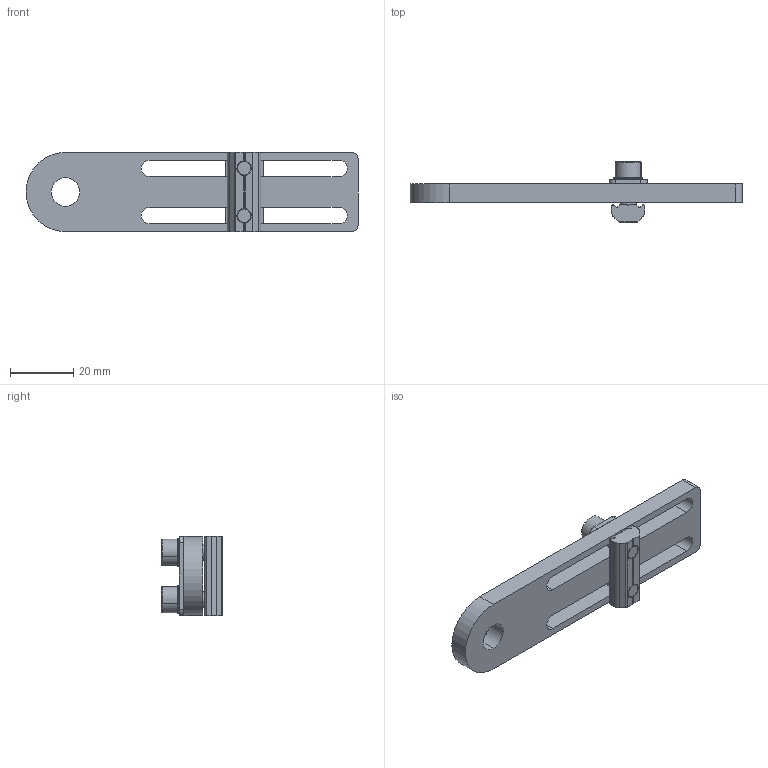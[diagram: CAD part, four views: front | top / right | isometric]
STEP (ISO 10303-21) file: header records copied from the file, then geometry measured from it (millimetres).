
FILE_DESCRIPTION (( 'STEP AP214' ), '1' );
FILE_NAME ('SMBE5-M1060.STEP', '2019-11-21T06:50:50', ( '微软用户' ), ( '微软中国' ), 'SwSTEP 2.0', 'SolidWorks 2016', '' );
FILE_SCHEMA (( 'AUTOMOTIVE_DESIGN' ));
Length unit declared in the file: millimetre
Products named in the file (1): SMBE5-M1060
Bounding box: 105 x 19 x 25 mm (x, y, z)
Volume: 13418 mm3; surface area: 9785.7 mm2
Topology: 7 solids, 7 shells, 450 faces, 1308 edges, 868 vertices
Faces by surface type: plane 383, cylinder 55, cone 12
Entity records: 20136 total; most frequent: CARTESIAN_POINT 2819, ORIENTED_EDGE 2616, DIRECTION 2612, EDGE_CURVE 1308, AXIS2_PLACEMENT_3D 885, VERTEX_POINT 868, VECTOR 842, LINE 842
